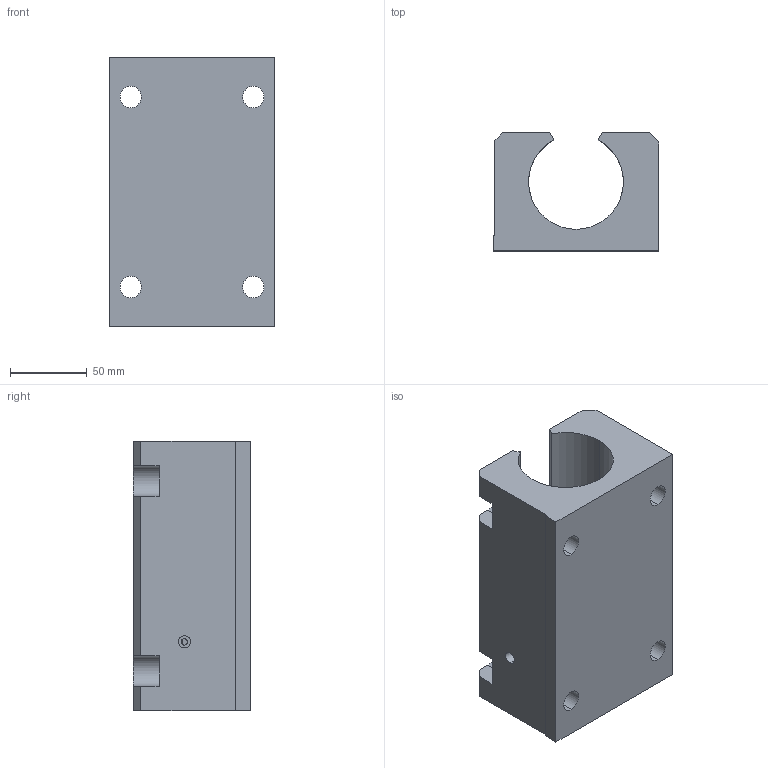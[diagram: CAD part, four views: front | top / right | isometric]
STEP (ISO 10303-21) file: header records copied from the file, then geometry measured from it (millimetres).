
FILE_DESCRIPTION (( 'STEP AP214' ), '1' );
FILE_NAME ('KTGO87-I-40.step', '2020-03-04T13:32:46', ( '' ), ( '' ), 'SwSTEP 2.0', 'SolidWorks 2019', '' );
FILE_SCHEMA (( 'AUTOMOTIVE_DESIGN' ));
Length unit declared in the file: millimetre
Products named in the file (1): KTGO87-I-40
Bounding box: 108 x 77 x 176 mm (x, y, z)
Volume: 834441.1 mm3; surface area: 112589.9 mm2
Topology: 1 solids, 1 shells, 61 faces, 171 edges, 112 vertices
Faces by surface type: plane 31, cylinder 27, cone 3
Entity records: 2332 total; most frequent: CARTESIAN_POINT 515, ORIENTED_EDGE 342, DIRECTION 334, EDGE_CURVE 171, VERTEX_POINT 112, LINE 112, VECTOR 112, AXIS2_PLACEMENT_3D 111
